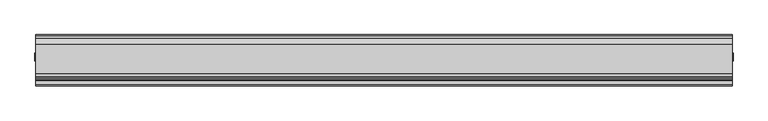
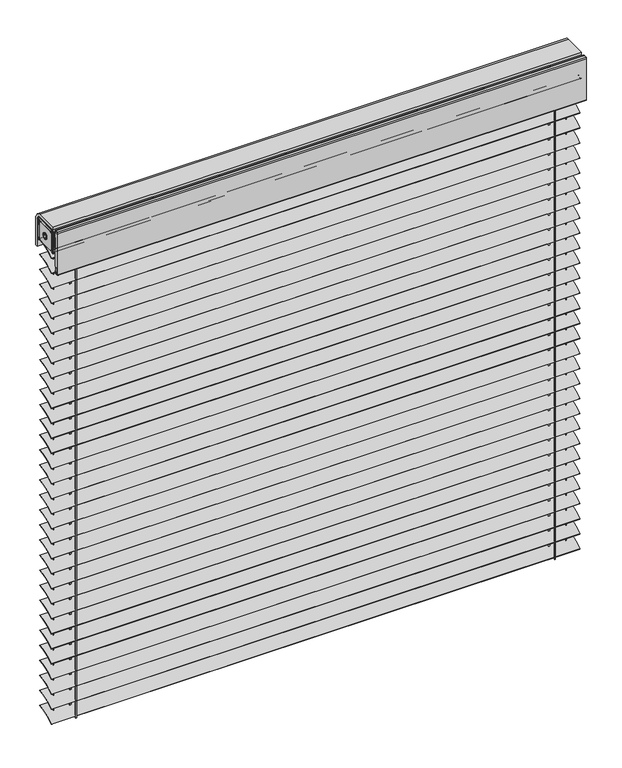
"""IFC4 building model written with IfcOpenShell, lengths in millimetres: proxy geometry, Windows-Blinds Schenker Stores Stores a lamelles Economy EC 70 : Windows-Blinds Schenker Stores Stores a lamelles Economy EC 76."""

from ifc_helpers import new_model, si_unit, point, frame, frame_2d, origin, origin_with_axes, place, context, project, spatial, polyline, circle_curve, trimmed, segment, composite_curve, outline, extrude, source, transform, mapped, element, save


def generic_models_453052fa(model_context):
    return source(origin(), model_context, "Body", "SweptSolid", [
        extrude(outline(composite_curve([segment(trimmed(circle_curve(frame_2d((-18.8646778, 1451.2241882)), 112.7401342), [point((-88.1932392, 1540.1280038))], [point((-22.3317138, 1563.9109998))], False, "CARTESIAN"), True, "CONTINUOUS"), segment(polyline([(-22.3317138, 1563.9109998), (-22.3317138, 1562.9105223)]), True, "CONTINUOUS"), segment(trimmed(circle_curve(frame_2d((-18.8646778, 1451.2241882)), 111.7401342), [point((-22.3317138, 1562.9105223))], [point((-87.5782979, 1539.3394309))], True, "CARTESIAN"), True, "CONTINUOUS"), segment(polyline([(-87.5782979, 1539.3394309), (-88.1932392, 1540.1280038)]), True, "CONTINUOUS")], self_intersect=False)), frame((-850.0, 0.0, 0.0), z_axis=(1.0, 0.0, 0.0), x_axis=(0.0, 1.0, 0.0)), (0.0, 0.0, 1.0), 1700.0),
        extrude(outline(composite_curve([segment(trimmed(circle_curve(frame_2d((-18.8646778, 1400.1351879)), 112.7401342), [point((-88.1932392, 1489.0390036))], [point((-22.3317138, 1512.8219996))], False, "CARTESIAN"), True, "CONTINUOUS"), segment(polyline([(-22.3317138, 1512.8219996), (-22.3317138, 1511.8215221)]), True, "CONTINUOUS"), segment(trimmed(circle_curve(frame_2d((-18.8646778, 1400.1351879)), 111.7401342), [point((-22.3317138, 1511.8215221))], [point((-87.5782979, 1488.2504307))], True, "CARTESIAN"), True, "CONTINUOUS"), segment(polyline([(-87.5782979, 1488.2504307), (-88.1932392, 1489.0390036)]), True, "CONTINUOUS")], self_intersect=False)), frame((-850.0, 0.0, 0.0), z_axis=(1.0, 0.0, 0.0), x_axis=(0.0, 1.0, 0.0)), (0.0, 0.0, 1.0), 1700.0),
        extrude(outline(composite_curve([segment(trimmed(circle_curve(frame_2d((-18.8646778, 1349.0461877)), 112.7401342), [point((-88.1932392, 1437.9500033))], [point((-22.3317138, 1461.7329993))], False, "CARTESIAN"), True, "CONTINUOUS"), segment(polyline([(-22.3317138, 1461.7329993), (-22.3317138, 1460.7325219)]), True, "CONTINUOUS"), segment(trimmed(circle_curve(frame_2d((-18.8646778, 1349.0461877)), 111.7401342), [point((-22.3317138, 1460.7325219))], [point((-87.5782979, 1437.1614304))], True, "CARTESIAN"), True, "CONTINUOUS"), segment(polyline([(-87.5782979, 1437.1614304), (-88.1932392, 1437.9500033)]), True, "CONTINUOUS")], self_intersect=False)), frame((-850.0, 0.0, 0.0), z_axis=(1.0, 0.0, 0.0), x_axis=(0.0, 1.0, 0.0)), (0.0, 0.0, 1.0), 1700.0),
        extrude(outline(composite_curve([segment(trimmed(circle_curve(frame_2d((-18.8646778, 1297.9571875)), 112.7401342), [point((-88.1932392, 1386.8610031))], [point((-22.3317138, 1410.6439991))], False, "CARTESIAN"), True, "CONTINUOUS"), segment(polyline([(-22.3317138, 1410.6439991), (-22.3317138, 1409.6435217)]), True, "CONTINUOUS"), segment(trimmed(circle_curve(frame_2d((-18.8646778, 1297.9571875)), 111.7401342), [point((-22.3317138, 1409.6435217))], [point((-87.5782979, 1386.0724302))], True, "CARTESIAN"), True, "CONTINUOUS"), segment(polyline([(-87.5782979, 1386.0724302), (-88.1932392, 1386.8610031)]), True, "CONTINUOUS")], self_intersect=False)), frame((-850.0, 0.0, 0.0), z_axis=(1.0, 0.0, 0.0), x_axis=(0.0, 1.0, 0.0)), (0.0, 0.0, 1.0), 1700.0),
        extrude(outline(composite_curve([segment(trimmed(circle_curve(frame_2d((-18.8646778, 1246.8681873)), 112.7401342), [point((-88.1932392, 1335.7720029))], [point((-22.3317138, 1359.5549989))], False, "CARTESIAN"), True, "CONTINUOUS"), segment(polyline([(-22.3317138, 1359.5549989), (-22.3317138, 1358.5545215)]), True, "CONTINUOUS"), segment(trimmed(circle_curve(frame_2d((-18.8646778, 1246.8681873)), 111.7401342), [point((-22.3317138, 1358.5545215))], [point((-87.5782979, 1334.98343))], True, "CARTESIAN"), True, "CONTINUOUS"), segment(polyline([(-87.5782979, 1334.98343), (-88.1932392, 1335.7720029)]), True, "CONTINUOUS")], self_intersect=False)), frame((-850.0, 0.0, 0.0), z_axis=(1.0, 0.0, 0.0), x_axis=(0.0, 1.0, 0.0)), (0.0, 0.0, 1.0), 1700.0),
        extrude(outline(composite_curve([segment(trimmed(circle_curve(frame_2d((-18.8646778, 1195.7791871)), 112.7401342), [point((-88.1932392, 1284.6830027))], [point((-22.3317138, 1308.4659987))], False, "CARTESIAN"), True, "CONTINUOUS"), segment(polyline([(-22.3317138, 1308.4659987), (-22.3317138, 1307.4655212)]), True, "CONTINUOUS"), segment(trimmed(circle_curve(frame_2d((-18.8646778, 1195.7791871)), 111.7401342), [point((-22.3317138, 1307.4655212))], [point((-87.5782979, 1283.8944298))], True, "CARTESIAN"), True, "CONTINUOUS"), segment(polyline([(-87.5782979, 1283.8944298), (-88.1932392, 1284.6830027)]), True, "CONTINUOUS")], self_intersect=False)), frame((-850.0, 0.0, 0.0), z_axis=(1.0, 0.0, 0.0), x_axis=(0.0, 1.0, 0.0)), (0.0, 0.0, 1.0), 1700.0),
        extrude(outline(composite_curve([segment(trimmed(circle_curve(frame_2d((-18.8646778, 1144.6901868)), 112.7401342), [point((-88.1932392, 1233.5940025))], [point((-22.3317138, 1257.3769984))], False, "CARTESIAN"), True, "CONTINUOUS"), segment(polyline([(-22.3317138, 1257.3769984), (-22.3317138, 1256.376521)]), True, "CONTINUOUS"), segment(trimmed(circle_curve(frame_2d((-18.8646778, 1144.6901868)), 111.7401342), [point((-22.3317138, 1256.376521))], [point((-87.5782979, 1232.8054295))], True, "CARTESIAN"), True, "CONTINUOUS"), segment(polyline([(-87.5782979, 1232.8054295), (-88.1932392, 1233.5940025)]), True, "CONTINUOUS")], self_intersect=False)), frame((-850.0, 0.0, 0.0), z_axis=(1.0, 0.0, 0.0), x_axis=(0.0, 1.0, 0.0)), (0.0, 0.0, 1.0), 1700.0),
        extrude(outline(composite_curve([segment(trimmed(circle_curve(frame_2d((-18.8646778, 1093.6011866)), 112.7401342), [point((-88.1932392, 1182.5050022))], [point((-22.3317138, 1206.2879982))], False, "CARTESIAN"), True, "CONTINUOUS"), segment(polyline([(-22.3317138, 1206.2879982), (-22.3317138, 1205.2875208)]), True, "CONTINUOUS"), segment(trimmed(circle_curve(frame_2d((-18.8646778, 1093.6011866)), 111.7401342), [point((-22.3317138, 1205.2875208))], [point((-87.5782979, 1181.7164293))], True, "CARTESIAN"), True, "CONTINUOUS"), segment(polyline([(-87.5782979, 1181.7164293), (-88.1932392, 1182.5050022)]), True, "CONTINUOUS")], self_intersect=False)), frame((-850.0, 0.0, 0.0), z_axis=(1.0, 0.0, 0.0), x_axis=(0.0, 1.0, 0.0)), (0.0, 0.0, 1.0), 1700.0),
        extrude(outline(composite_curve([segment(trimmed(circle_curve(frame_2d((-18.8646778, 1042.5121864)), 112.7401342), [point((-88.1932392, 1131.416002))], [point((-22.3317138, 1155.198998))], False, "CARTESIAN"), True, "CONTINUOUS"), segment(polyline([(-22.3317138, 1155.198998), (-22.3317138, 1154.1985206)]), True, "CONTINUOUS"), segment(trimmed(circle_curve(frame_2d((-18.8646778, 1042.5121864)), 111.7401342), [point((-22.3317138, 1154.1985206))], [point((-87.5782979, 1130.6274291))], True, "CARTESIAN"), True, "CONTINUOUS"), segment(polyline([(-87.5782979, 1130.6274291), (-88.1932392, 1131.416002)]), True, "CONTINUOUS")], self_intersect=False)), frame((-850.0, 0.0, 0.0), z_axis=(1.0, 0.0, 0.0), x_axis=(0.0, 1.0, 0.0)), (0.0, 0.0, 1.0), 1700.0),
        extrude(outline(composite_curve([segment(trimmed(circle_curve(frame_2d((-18.8646778, 991.4231862)), 112.7401342), [point((-88.1932392, 1080.3270018))], [point((-22.3317138, 1104.1099978))], False, "CARTESIAN"), True, "CONTINUOUS"), segment(polyline([(-22.3317138, 1104.1099978), (-22.3317138, 1103.1095203)]), True, "CONTINUOUS"), segment(trimmed(circle_curve(frame_2d((-18.8646778, 991.4231862)), 111.7401342), [point((-22.3317138, 1103.1095203))], [point((-87.5782979, 1079.5384289))], True, "CARTESIAN"), True, "CONTINUOUS"), segment(polyline([(-87.5782979, 1079.5384289), (-88.1932392, 1080.3270018)]), True, "CONTINUOUS")], self_intersect=False)), frame((-850.0, 0.0, 0.0), z_axis=(1.0, 0.0, 0.0), x_axis=(0.0, 1.0, 0.0)), (0.0, 0.0, 1.0), 1700.0),
        extrude(outline(composite_curve([segment(trimmed(circle_curve(frame_2d((-18.8646778, 940.3341859)), 112.7401342), [point((-88.1932392, 1029.2380016))], [point((-22.3317138, 1053.0209976))], False, "CARTESIAN"), True, "CONTINUOUS"), segment(polyline([(-22.3317138, 1053.0209976), (-22.3317138, 1052.0205201)]), True, "CONTINUOUS"), segment(trimmed(circle_curve(frame_2d((-18.8646778, 940.3341859)), 111.7401342), [point((-22.3317138, 1052.0205201))], [point((-87.5782979, 1028.4494287))], True, "CARTESIAN"), True, "CONTINUOUS"), segment(polyline([(-87.5782979, 1028.4494287), (-88.1932392, 1029.2380016)]), True, "CONTINUOUS")], self_intersect=False)), frame((-850.0, 0.0, 0.0), z_axis=(1.0, 0.0, 0.0), x_axis=(0.0, 1.0, 0.0)), (0.0, 0.0, 1.0), 1700.0),
        extrude(outline(composite_curve([segment(trimmed(circle_curve(frame_2d((-18.8646778, 889.2451857)), 112.7401342), [point((-88.1932392, 978.1490013))], [point((-22.3317138, 1001.9319973))], False, "CARTESIAN"), True, "CONTINUOUS"), segment(polyline([(-22.3317138, 1001.9319973), (-22.3317138, 1000.9315199)]), True, "CONTINUOUS"), segment(trimmed(circle_curve(frame_2d((-18.8646778, 889.2451857)), 111.7401342), [point((-22.3317138, 1000.9315199))], [point((-87.5782979, 977.3604284))], True, "CARTESIAN"), True, "CONTINUOUS"), segment(polyline([(-87.5782979, 977.3604284), (-88.1932392, 978.1490013)]), True, "CONTINUOUS")], self_intersect=False)), frame((-850.0, 0.0, 0.0), z_axis=(1.0, 0.0, 0.0), x_axis=(0.0, 1.0, 0.0)), (0.0, 0.0, 1.0), 1700.0),
        extrude(outline(composite_curve([segment(trimmed(circle_curve(frame_2d((-18.8646778, 838.1561855)), 112.7401342), [point((-88.1932392, 927.0600011))], [point((-22.3317138, 950.8429971))], False, "CARTESIAN"), True, "CONTINUOUS"), segment(polyline([(-22.3317138, 950.8429971), (-22.3317138, 949.8425197)]), True, "CONTINUOUS"), segment(trimmed(circle_curve(frame_2d((-18.8646778, 838.1561855)), 111.7401342), [point((-22.3317138, 949.8425197))], [point((-87.5782979, 926.2714282))], True, "CARTESIAN"), True, "CONTINUOUS"), segment(polyline([(-87.5782979, 926.2714282), (-88.1932392, 927.0600011)]), True, "CONTINUOUS")], self_intersect=False)), frame((-850.0, 0.0, 0.0), z_axis=(1.0, 0.0, 0.0), x_axis=(0.0, 1.0, 0.0)), (0.0, 0.0, 1.0), 1700.0),
        extrude(outline(composite_curve([segment(trimmed(circle_curve(frame_2d((-18.8646778, 787.0671853)), 112.7401342), [point((-88.1932392, 875.9710009))], [point((-22.3317138, 899.7539969))], False, "CARTESIAN"), True, "CONTINUOUS"), segment(polyline([(-22.3317138, 899.7539969), (-22.3317138, 898.7535195)]), True, "CONTINUOUS"), segment(trimmed(circle_curve(frame_2d((-18.8646778, 787.0671853)), 111.7401342), [point((-22.3317138, 898.7535195))], [point((-87.5782979, 875.182428))], True, "CARTESIAN"), True, "CONTINUOUS"), segment(polyline([(-87.5782979, 875.182428), (-88.1932392, 875.9710009)]), True, "CONTINUOUS")], self_intersect=False)), frame((-850.0, 0.0, 0.0), z_axis=(1.0, 0.0, 0.0), x_axis=(0.0, 1.0, 0.0)), (0.0, 0.0, 1.0), 1700.0),
        extrude(outline(composite_curve([segment(trimmed(circle_curve(frame_2d((-18.8646778, 735.9781851)), 112.7401342), [point((-88.1932392, 824.8820007))], [point((-22.3317138, 848.6649967))], False, "CARTESIAN"), True, "CONTINUOUS"), segment(polyline([(-22.3317138, 848.6649967), (-22.3317138, 847.6645192)]), True, "CONTINUOUS"), segment(trimmed(circle_curve(frame_2d((-18.8646778, 735.9781851)), 111.7401342), [point((-22.3317138, 847.6645192))], [point((-87.5782979, 824.0934278))], True, "CARTESIAN"), True, "CONTINUOUS"), segment(polyline([(-87.5782979, 824.0934278), (-88.1932392, 824.8820007)]), True, "CONTINUOUS")], self_intersect=False)), frame((-850.0, 0.0, 0.0), z_axis=(1.0, 0.0, 0.0), x_axis=(0.0, 1.0, 0.0)), (0.0, 0.0, 1.0), 1700.0),
        extrude(outline(composite_curve([segment(trimmed(circle_curve(frame_2d((-18.8646778, 684.8891848)), 112.7401342), [point((-88.1932392, 773.7930005))], [point((-22.3317138, 797.5759964))], False, "CARTESIAN"), True, "CONTINUOUS"), segment(polyline([(-22.3317138, 797.5759964), (-22.3317138, 796.575519)]), True, "CONTINUOUS"), segment(trimmed(circle_curve(frame_2d((-18.8646778, 684.8891848)), 111.7401342), [point((-22.3317138, 796.575519))], [point((-87.5782979, 773.0044275))], True, "CARTESIAN"), True, "CONTINUOUS"), segment(polyline([(-87.5782979, 773.0044275), (-88.1932392, 773.7930005)]), True, "CONTINUOUS")], self_intersect=False)), frame((-850.0, 0.0, 0.0), z_axis=(1.0, 0.0, 0.0), x_axis=(0.0, 1.0, 0.0)), (0.0, 0.0, 1.0), 1700.0),
        extrude(outline(composite_curve([segment(trimmed(circle_curve(frame_2d((-18.8646778, 633.8001846)), 112.7401342), [point((-88.1932392, 722.7040002))], [point((-22.3317138, 746.4869962))], False, "CARTESIAN"), True, "CONTINUOUS"), segment(polyline([(-22.3317138, 746.4869962), (-22.3317138, 745.4865188)]), True, "CONTINUOUS"), segment(trimmed(circle_curve(frame_2d((-18.8646778, 633.8001846)), 111.7401342), [point((-22.3317138, 745.4865188))], [point((-87.5782979, 721.9154273))], True, "CARTESIAN"), True, "CONTINUOUS"), segment(polyline([(-87.5782979, 721.9154273), (-88.1932392, 722.7040002)]), True, "CONTINUOUS")], self_intersect=False)), frame((-850.0, 0.0, 0.0), z_axis=(1.0, 0.0, 0.0), x_axis=(0.0, 1.0, 0.0)), (0.0, 0.0, 1.0), 1700.0),
        extrude(outline(composite_curve([segment(trimmed(circle_curve(frame_2d((-18.8646778, 582.7111844)), 112.7401342), [point((-88.1932392, 671.615))], [point((-22.3317138, 695.397996))], False, "CARTESIAN"), True, "CONTINUOUS"), segment(polyline([(-22.3317138, 695.397996), (-22.3317138, 694.3975186)]), True, "CONTINUOUS"), segment(trimmed(circle_curve(frame_2d((-18.8646778, 582.7111844)), 111.7401342), [point((-22.3317138, 694.3975186))], [point((-87.5782979, 670.8264271))], True, "CARTESIAN"), True, "CONTINUOUS"), segment(polyline([(-87.5782979, 670.8264271), (-88.1932392, 671.615)]), True, "CONTINUOUS")], self_intersect=False)), frame((-850.0, 0.0, 0.0), z_axis=(1.0, 0.0, 0.0), x_axis=(0.0, 1.0, 0.0)), (0.0, 0.0, 1.0), 1700.0),
        extrude(outline(composite_curve([segment(trimmed(circle_curve(frame_2d((-18.8646778, 531.6221842)), 112.7401342), [point((-88.1932392, 620.5259998))], [point((-22.3317138, 644.3089958))], False, "CARTESIAN"), True, "CONTINUOUS"), segment(polyline([(-22.3317138, 644.3089958), (-22.3317138, 643.3085183)]), True, "CONTINUOUS"), segment(trimmed(circle_curve(frame_2d((-18.8646778, 531.6221842)), 111.7401342), [point((-22.3317138, 643.3085183))], [point((-87.5782979, 619.7374269))], True, "CARTESIAN"), True, "CONTINUOUS"), segment(polyline([(-87.5782979, 619.7374269), (-88.1932392, 620.5259998)]), True, "CONTINUOUS")], self_intersect=False)), frame((-850.0, 0.0, 0.0), z_axis=(1.0, 0.0, 0.0), x_axis=(0.0, 1.0, 0.0)), (0.0, 0.0, 1.0), 1700.0),
        extrude(outline(composite_curve([segment(trimmed(circle_curve(frame_2d((-18.8646778, 480.5331839)), 112.7401342), [point((-88.1932392, 569.4369996))], [point((-22.3317138, 593.2199956))], False, "CARTESIAN"), True, "CONTINUOUS"), segment(polyline([(-22.3317138, 593.2199956), (-22.3317138, 592.2195181)]), True, "CONTINUOUS"), segment(trimmed(circle_curve(frame_2d((-18.8646778, 480.5331839)), 111.7401342), [point((-22.3317138, 592.2195181))], [point((-87.5782979, 568.6484267))], True, "CARTESIAN"), True, "CONTINUOUS"), segment(polyline([(-87.5782979, 568.6484267), (-88.1932392, 569.4369996)]), True, "CONTINUOUS")], self_intersect=False)), frame((-850.0, 0.0, 0.0), z_axis=(1.0, 0.0, 0.0), x_axis=(0.0, 1.0, 0.0)), (0.0, 0.0, 1.0), 1700.0),
        extrude(outline(composite_curve([segment(trimmed(circle_curve(frame_2d((-18.8646778, 429.4441837)), 112.7401342), [point((-88.1932392, 518.3479993))], [point((-22.3317138, 542.1309953))], False, "CARTESIAN"), True, "CONTINUOUS"), segment(polyline([(-22.3317138, 542.1309953), (-22.3317138, 541.1305179)]), True, "CONTINUOUS"), segment(trimmed(circle_curve(frame_2d((-18.8646778, 429.4441837)), 111.7401342), [point((-22.3317138, 541.1305179))], [point((-87.5782979, 517.5594264))], True, "CARTESIAN"), True, "CONTINUOUS"), segment(polyline([(-87.5782979, 517.5594264), (-88.1932392, 518.3479993)]), True, "CONTINUOUS")], self_intersect=False)), frame((-850.0, 0.0, 0.0), z_axis=(1.0, 0.0, 0.0), x_axis=(0.0, 1.0, 0.0)), (0.0, 0.0, 1.0), 1700.0),
        extrude(outline(composite_curve([segment(trimmed(circle_curve(frame_2d((-18.8646778, 378.3551835)), 112.7401342), [point((-88.1932392, 467.2589991))], [point((-22.3317138, 491.0419951))], False, "CARTESIAN"), True, "CONTINUOUS"), segment(polyline([(-22.3317138, 491.0419951), (-22.3317138, 490.0415177)]), True, "CONTINUOUS"), segment(trimmed(circle_curve(frame_2d((-18.8646778, 378.3551835)), 111.7401342), [point((-22.3317138, 490.0415177))], [point((-87.5782979, 466.4704262))], True, "CARTESIAN"), True, "CONTINUOUS"), segment(polyline([(-87.5782979, 466.4704262), (-88.1932392, 467.2589991)]), True, "CONTINUOUS")], self_intersect=False)), frame((-850.0, 0.0, 0.0), z_axis=(1.0, 0.0, 0.0), x_axis=(0.0, 1.0, 0.0)), (0.0, 0.0, 1.0), 1700.0),
        extrude(outline(composite_curve([segment(trimmed(circle_curve(frame_2d((-18.8646778, 327.2661833)), 112.7401342), [point((-88.1932392, 416.1699989))], [point((-22.3317138, 439.9529949))], False, "CARTESIAN"), True, "CONTINUOUS"), segment(polyline([(-22.3317138, 439.9529949), (-22.3317138, 438.9525175)]), True, "CONTINUOUS"), segment(trimmed(circle_curve(frame_2d((-18.8646778, 327.2661833)), 111.7401342), [point((-22.3317138, 438.9525175))], [point((-87.5782979, 415.381426))], True, "CARTESIAN"), True, "CONTINUOUS"), segment(polyline([(-87.5782979, 415.381426), (-88.1932392, 416.1699989)]), True, "CONTINUOUS")], self_intersect=False)), frame((-850.0, 0.0, 0.0), z_axis=(1.0, 0.0, 0.0), x_axis=(0.0, 1.0, 0.0)), (0.0, 0.0, 1.0), 1700.0),
        extrude(outline(composite_curve([segment(trimmed(circle_curve(frame_2d((-18.8646778, 276.1771831)), 112.7401342), [point((-88.1932392, 365.0809987))], [point((-22.3317138, 388.8639947))], False, "CARTESIAN"), True, "CONTINUOUS"), segment(polyline([(-22.3317138, 388.8639947), (-22.3317138, 387.8635172)]), True, "CONTINUOUS"), segment(trimmed(circle_curve(frame_2d((-18.8646778, 276.1771831)), 111.7401342), [point((-22.3317138, 387.8635172))], [point((-87.5782979, 364.2924258))], True, "CARTESIAN"), True, "CONTINUOUS"), segment(polyline([(-87.5782979, 364.2924258), (-88.1932392, 365.0809987)]), True, "CONTINUOUS")], self_intersect=False)), frame((-850.0, 0.0, 0.0), z_axis=(1.0, 0.0, 0.0), x_axis=(0.0, 1.0, 0.0)), (0.0, 0.0, 1.0), 1700.0),
        extrude(outline(composite_curve([segment(trimmed(circle_curve(frame_2d((-18.8646778, 225.0881828)), 112.7401342), [point((-88.1932392, 313.9919985))], [point((-22.3317138, 337.7749944))], False, "CARTESIAN"), True, "CONTINUOUS"), segment(polyline([(-22.3317138, 337.7749944), (-22.3317138, 336.774517)]), True, "CONTINUOUS"), segment(trimmed(circle_curve(frame_2d((-18.8646778, 225.0881828)), 111.7401342), [point((-22.3317138, 336.774517))], [point((-87.5782979, 313.2034255))], True, "CARTESIAN"), True, "CONTINUOUS"), segment(polyline([(-87.5782979, 313.2034255), (-88.1932392, 313.9919985)]), True, "CONTINUOUS")], self_intersect=False)), frame((-850.0, 0.0, 0.0), z_axis=(1.0, 0.0, 0.0), x_axis=(0.0, 1.0, 0.0)), (0.0, 0.0, 1.0), 1700.0),
        extrude(outline(composite_curve([segment(trimmed(circle_curve(frame_2d((-18.8646778, 173.9991826)), 112.7401342), [point((-88.1932392, 262.9029982))], [point((-22.3317138, 286.6859942))], False, "CARTESIAN"), True, "CONTINUOUS"), segment(polyline([(-22.3317138, 286.6859942), (-22.3317138, 285.6855168)]), True, "CONTINUOUS"), segment(trimmed(circle_curve(frame_2d((-18.8646778, 173.9991826)), 111.7401342), [point((-22.3317138, 285.6855168))], [point((-87.5782979, 262.1144253))], True, "CARTESIAN"), True, "CONTINUOUS"), segment(polyline([(-87.5782979, 262.1144253), (-88.1932392, 262.9029982)]), True, "CONTINUOUS")], self_intersect=False)), frame((-850.0, 0.0, 0.0), z_axis=(1.0, 0.0, 0.0), x_axis=(0.0, 1.0, 0.0)), (0.0, 0.0, 1.0), 1700.0),
        extrude(outline(composite_curve([segment(trimmed(circle_curve(frame_2d((-18.8646778, 122.9101824)), 112.7401342), [point((-88.1932392, 211.813998))], [point((-22.3317138, 235.596994))], False, "CARTESIAN"), True, "CONTINUOUS"), segment(polyline([(-22.3317138, 235.596994), (-22.3317138, 234.5965166)]), True, "CONTINUOUS"), segment(trimmed(circle_curve(frame_2d((-18.8646778, 122.9101824)), 111.7401342), [point((-22.3317138, 234.5965166))], [point((-87.5782979, 211.0254251))], True, "CARTESIAN"), True, "CONTINUOUS"), segment(polyline([(-87.5782979, 211.0254251), (-88.1932392, 211.813998)]), True, "CONTINUOUS")], self_intersect=False)), frame((-850.0, 0.0, 0.0), z_axis=(1.0, 0.0, 0.0), x_axis=(0.0, 1.0, 0.0)), (0.0, 0.0, 1.0), 1700.0),
        extrude(outline(composite_curve([segment(trimmed(circle_curve(frame_2d((-18.8646778, 71.8211822)), 112.7401342), [point((-88.1932392, 160.7249978))], [point((-22.3317138, 184.5079938))], False, "CARTESIAN"), True, "CONTINUOUS"), segment(polyline([(-22.3317138, 184.5079938), (-22.3317138, 183.5075163)]), True, "CONTINUOUS"), segment(trimmed(circle_curve(frame_2d((-18.8646778, 71.8211822)), 111.7401342), [point((-22.3317138, 183.5075163))], [point((-87.5782979, 159.9364249))], True, "CARTESIAN"), True, "CONTINUOUS"), segment(polyline([(-87.5782979, 159.9364249), (-88.1932392, 160.7249978)]), True, "CONTINUOUS")], self_intersect=False)), frame((-850.0, 0.0, 0.0), z_axis=(1.0, 0.0, 0.0), x_axis=(0.0, 1.0, 0.0)), (0.0, 0.0, 1.0), 1700.0),
        extrude(outline(composite_curve([segment(trimmed(circle_curve(frame_2d((-18.8646778, 20.7321819)), 112.7401342), [point((-88.1932392, 109.6359976))], [point((-22.3317138, 133.4189936))], False, "CARTESIAN"), True, "CONTINUOUS"), segment(polyline([(-22.3317138, 133.4189936), (-22.3317138, 132.4185161)]), True, "CONTINUOUS"), segment(trimmed(circle_curve(frame_2d((-18.8646778, 20.7321819)), 111.7401342), [point((-22.3317138, 132.4185161))], [point((-87.5782979, 108.8474247))], True, "CARTESIAN"), True, "CONTINUOUS"), segment(polyline([(-87.5782979, 108.8474247), (-88.1932392, 109.6359976)]), True, "CONTINUOUS")], self_intersect=False)), frame((-850.0, 0.0, 0.0), z_axis=(1.0, 0.0, 0.0), x_axis=(0.0, 1.0, 0.0)), (0.0, 0.0, 1.0), 1700.0),
        extrude(outline(composite_curve([segment(trimmed(circle_curve(frame_2d((-18.8646778, -30.3568183)), 112.7401342), [point((-88.1932392, 58.5469973))], [point((-22.3317138, 82.3299933))], False, "CARTESIAN"), True, "CONTINUOUS"), segment(polyline([(-22.3317138, 82.3299933), (-22.3317138, 81.3295159)]), True, "CONTINUOUS"), segment(trimmed(circle_curve(frame_2d((-18.8646778, -30.3568183)), 111.7401342), [point((-22.3317138, 81.3295159))], [point((-87.5782979, 57.7584244))], True, "CARTESIAN"), True, "CONTINUOUS"), segment(polyline([(-87.5782979, 57.7584244), (-88.1932392, 58.5469973)]), True, "CONTINUOUS")], self_intersect=False)), frame((-850.0, 0.0, 0.0), z_axis=(1.0, 0.0, 0.0), x_axis=(0.0, 1.0, 0.0)), (0.0, 0.0, 1.0), 1700.0),
        extrude(outline(composite_curve([segment(trimmed(circle_curve(frame_2d((-18.8646778, 1502.3131884)), 112.7401342), [point((-88.1932392, 1591.217004))], [point((-22.3317138, 1615.0))], False, "CARTESIAN"), True, "CONTINUOUS"), segment(polyline([(-22.3317138, 1615.0), (-22.3317138, 1613.9995226)]), True, "CONTINUOUS"), segment(trimmed(circle_curve(frame_2d((-18.8646778, 1502.3131884)), 111.7401342), [point((-22.3317138, 1613.9995226))], [point((-87.5782979, 1590.4284311))], True, "CARTESIAN"), True, "CONTINUOUS"), segment(polyline([(-87.5782979, 1590.4284311), (-88.1932392, 1591.217004)]), True, "CONTINUOUS")], self_intersect=False)), frame((-850.0, 0.0, 0.0), z_axis=(1.0, 0.0, 0.0), x_axis=(0.0, 1.0, 0.0)), (0.0, 0.0, 1.0), 1700.0),
        extrude(outline(polyline([(-823.7246781, -54.667671), (-823.7246781, -55.5704874), (-825.0, -55.5704874), (-825.0, -54.667671), (-823.7246781, -54.667671)])), origin_with_axes(), (0.0, 0.0, 1.0), 1615.0),
        extrude(outline(polyline([(-767.7873221, -54.6676648), (-767.7873221, -55.5276502), (-772.5868112, -55.5276502), (-772.5868112, -54.6676648), (-767.7873221, -54.6676648)])), origin_with_axes(), (0.0, 0.0, 1.0), 1615.0),
        extrude(outline(polyline([(823.7246781, -54.667671), (825.0, -54.667671), (825.0, -55.5704874), (823.7246781, -55.5704874), (823.7246781, -54.667671)])), origin_with_axes(), (0.0, 0.0, 1.0), 1615.0),
        extrude(outline(polyline([(767.7873221, -54.6676648), (772.5868112, -54.6676648), (772.5868112, -55.5704806), (767.7873221, -55.5704806), (767.7873221, -54.6676648)])), origin_with_axes(), (0.0, 0.0, 1.0), 1615.0),
        extrude(outline(polyline([(-768.8882367, -88.2983427), (-771.3882294, -88.2983427), (-771.3882294, -85.5983427), (-768.8882367, -85.5983427), (-768.8882367, -88.2983427)])), origin_with_axes(), (0.0, 0.0, 1.0), 1615.0),
        extrude(outline(polyline([(-771.3882294, -22.1475771), (-768.8882367, -22.1475771), (-768.8882367, -24.8080021), (-771.3882294, -24.8080021), (-771.3882294, -22.1475771)])), origin_with_axes(), (0.0, 0.0, 1.0), 1615.0),
        extrude(outline(polyline([(771.3958013, -22.1475771), (771.3958013, -24.8475771), (768.8958085, -24.8475771), (768.8958085, -22.1475771), (771.3958013, -22.1475771)])), origin_with_axes(), (0.0, 0.0, 1.0), 1615.0),
        extrude(outline(polyline([(768.8958085, -88.2983427), (768.8958085, -85.5983427), (771.3958013, -85.5983427), (771.3958013, -88.2983427), (768.8958085, -88.2983427)])), origin_with_axes(), (0.0, 0.0, 1.0), 1615.0),
        extrude(outline(composite_curve([segment(trimmed(circle_curve(frame_2d((-18.8646778, -81.4458185)), 112.7401342), [point((-88.1932392, 7.4579971))], [point((-22.3317138, 31.2409931))], False, "CARTESIAN"), True, "CONTINUOUS"), segment(polyline([(-22.3317138, 31.2409931), (-22.3317138, 30.2405157)]), True, "CONTINUOUS"), segment(trimmed(circle_curve(frame_2d((-18.8646778, -81.4458185)), 111.7401342), [point((-22.3317138, 30.2405157))], [point((-87.5782979, 6.6694242))], True, "CARTESIAN"), True, "CONTINUOUS"), segment(polyline([(-87.5782979, 6.6694242), (-88.1932392, 7.4579971)]), True, "CONTINUOUS")], self_intersect=False)), frame((-850.0, 0.0, 0.0), z_axis=(1.0, 0.0, 0.0), x_axis=(0.0, 1.0, 0.0)), (0.0, 0.0, 1.0), 1700.0),
        extrude(outline(composite_curve([segment(trimmed(circle_curve(frame_2d((-121.9991374, 1555.8607809)), 1.4999084), [point((-123.4990459, 1555.8607809))], [point((-121.9991374, 1554.3608725))], True, "CARTESIAN"), True, "CONTINUOUS"), segment(polyline([(-121.9991374, 1554.3608725), (-112.9990554, 1554.3608725)]), True, "CONTINUOUS"), segment(trimmed(circle_curve(frame_2d((-112.9990554, 1555.8608718)), 1.4999993), [point((-112.9990554, 1554.3608725))], [point((-111.4990561, 1555.8608718))], True, "CARTESIAN"), True, "CONTINUOUS"), segment(polyline([(-111.4990561, 1555.8608718), (-111.4990561, 1558.8249895), (-110.9535226, 1560.8609118), (-109.9990568, 1560.8609118), (-109.9990568, 1555.8607809)]), True, "CONTINUOUS"), segment(trimmed(circle_curve(frame_2d((-112.9990191, 1555.8607809)), 2.9999622), [point((-109.9990568, 1555.8607809))], [point((-112.9990191, 1552.8608187))], False, "CARTESIAN"), True, "CONTINUOUS"), segment(polyline([(-112.9990191, 1552.8608187), (-121.9990784, 1552.8608187)]), True, "CONTINUOUS"), segment(trimmed(circle_curve(frame_2d((-121.9990784, 1555.8607809)), 2.9999622), [point((-121.9990784, 1552.8608187))], [point((-124.9990406, 1555.8607809))], False, "CARTESIAN"), True, "CONTINUOUS"), segment(polyline([(-124.9990406, 1555.8607809), (-124.9990406, 1695.8608111)]), True, "CONTINUOUS"), segment(trimmed(circle_curve(frame_2d((-121.998933, 1695.8608111)), 3.0001076), [point((-124.9990406, 1695.8608111))], [point((-121.998933, 1698.8609186))], False, "CARTESIAN"), True, "CONTINUOUS"), segment(polyline([(-121.998933, 1698.8609186), (-112.099681, 1698.8609186)]), True, "CONTINUOUS"), segment(trimmed(circle_curve(frame_2d((-112.099681, 1695.8608787)), 3.0000399), [point((-112.099681, 1698.8609186))], [point((-109.2805505, 1696.8869112))], False, "CARTESIAN"), True, "CONTINUOUS"), segment(polyline([(-109.2805505, 1696.8869112), (-106.5788895, 1689.4638178), (-107.9884374, 1688.9509131), (-110.6901028, 1696.3738856)]), True, "CONTINUOUS"), segment(trimmed(circle_curve(frame_2d((-112.0996417, 1695.8608697)), 1.4999951), [point((-110.6901028, 1696.3738856))], [point((-112.0996417, 1697.3608649))], True, "CARTESIAN"), True, "CONTINUOUS"), segment(polyline([(-112.0996417, 1697.3608649), (-121.9989921, 1697.3608649)]), True, "CONTINUOUS"), segment(trimmed(circle_curve(frame_2d((-121.9989921, 1695.8608111)), 1.5000538), [point((-121.9989921, 1697.3608649))], [point((-123.4990459, 1695.8608111))], True, "CARTESIAN"), True, "CONTINUOUS"), segment(polyline([(-123.4990459, 1695.8608111), (-123.4990459, 1555.8607809)]), True, "CONTINUOUS")], self_intersect=False)), frame((-850.0, 0.0, 0.0), z_axis=(1.0, 0.0, 0.0), x_axis=(0.0, 1.0, 0.0)), (0.0, 0.0, 1.0), 1700.0),
        extrude(outline(polyline([(850.0, -112.9987209), (850.0, -121.4989243), (-850.0, -121.4989243), (-850.0, -112.9987209), (850.0, -112.9987209)])), frame((0.0, 0.0, 1555.0001297), z_axis=(0.0, 0.0, 1.0), x_axis=(1.0, 0.0, 0.0)), (0.0, 0.0, 1.0), 20.7405945),
        extrude(outline(composite_curve([segment(trimmed(circle_curve(frame_2d((-54.8266721, 1646.3040026)), 10.0021363), [point((-64.8288085, 1646.3040026))], [point((-44.8245358, 1646.3040026))], False, "CARTESIAN"), True, "CONTINUOUS"), segment(trimmed(circle_curve(frame_2d((-54.8266721, 1646.3040026)), 10.0021363), [point((-44.8245358, 1646.3040026))], [point((-64.8288085, 1646.3040026))], False, "CARTESIAN"), True, "CONTINUOUS")], self_intersect=False), holes=[composite_curve([segment(trimmed(circle_curve(frame_2d((-54.8290608, 1646.2380341)), 7.1747232), [point((-57.7519733, 1652.7903799))], [point((-51.9061483, 1652.7903799))], True, "CARTESIAN"), True, "CONTINUOUS"), segment(trimmed(circle_curve(frame_2d((-52.1590962, 1650.6163008)), 2.1887445), [point((-51.9061483, 1652.7903799))], [point((-54.0990698, 1651.6297627))], True, "CARTESIAN"), True, "CONTINUOUS"), segment(trimmed(circle_curve(frame_2d((-54.8287466, 1652.0109533)), 0.8232463), [point((-54.0990698, 1651.6297627))], [point((-55.5584234, 1651.6297627))], False, "CARTESIAN"), True, "CONTINUOUS"), segment(trimmed(circle_curve(frame_2d((-57.4984973, 1650.6162484)), 2.1888577), [point((-55.5584234, 1651.6297627))], [point((-57.7519733, 1652.7903799))], True, "CARTESIAN"), True, "CONTINUOUS")], self_intersect=False)]), frame((-851.9744708, 0.0, 0.0), z_axis=(1.0, 0.0, 0.0), x_axis=(0.0, 1.0, 0.0)), (0.0, 0.0, 1.0), 1.9744708),
        extrude(outline(composite_curve([segment(trimmed(circle_curve(frame_2d((-54.8287466, 1652.0370957)), 2.71764), [point((-57.3618888, 1651.0528406))], [point((-52.2956044, 1651.0528406))], True, "CARTESIAN"), True, "CONTINUOUS"), segment(trimmed(circle_curve(frame_2d((-54.8287466, 1646.2414961)), 5.4374485), [point((-52.2956044, 1651.0528406))], [point((-57.3618888, 1651.0528406))], False, "CARTESIAN"), True, "CONTINUOUS")], self_intersect=False)), frame((-851.9744708, 0.0, 0.0), z_axis=(1.0, 0.0, 0.0), x_axis=(0.0, 1.0, 0.0)), (0.0, 0.0, 1.0), 1.9744708),
        extrude(outline(composite_curve([segment(trimmed(circle_curve(frame_2d((-54.8266721, 1646.3040026)), 10.0021363), [point((-64.8288085, 1646.3040026))], [point((-44.8245358, 1646.3040026))], False, "CARTESIAN"), True, "CONTINUOUS"), segment(trimmed(circle_curve(frame_2d((-54.8266721, 1646.3040026)), 10.0021363), [point((-44.8245358, 1646.3040026))], [point((-64.8288085, 1646.3040026))], False, "CARTESIAN"), True, "CONTINUOUS")], self_intersect=False), holes=[composite_curve([segment(trimmed(circle_curve(frame_2d((-54.8290608, 1646.2380341)), 7.1747232), [point((-57.7519733, 1652.7903799))], [point((-51.9061483, 1652.7903799))], True, "CARTESIAN"), True, "CONTINUOUS"), segment(trimmed(circle_curve(frame_2d((-52.1590962, 1650.6163008)), 2.1887445), [point((-51.9061483, 1652.7903799))], [point((-54.0990698, 1651.6297627))], True, "CARTESIAN"), True, "CONTINUOUS"), segment(trimmed(circle_curve(frame_2d((-54.8287466, 1652.0109533)), 0.8232463), [point((-54.0990698, 1651.6297627))], [point((-55.5584234, 1651.6297627))], False, "CARTESIAN"), True, "CONTINUOUS"), segment(trimmed(circle_curve(frame_2d((-57.4984973, 1650.6162484)), 2.1888577), [point((-55.5584234, 1651.6297627))], [point((-57.7519733, 1652.7903799))], True, "CARTESIAN"), True, "CONTINUOUS")], self_intersect=False)]), frame((850.0, 0.0, 0.0), z_axis=(1.0, 0.0, 0.0), x_axis=(0.0, 1.0, 0.0)), (0.0, 0.0, 1.0), 1.9744708),
        extrude(outline(composite_curve([segment(trimmed(circle_curve(frame_2d((-54.8287466, 1652.0370957)), 2.71764), [point((-57.3618888, 1651.0528406))], [point((-52.2956044, 1651.0528406))], True, "CARTESIAN"), True, "CONTINUOUS"), segment(trimmed(circle_curve(frame_2d((-54.8287466, 1646.2414961)), 5.4374485), [point((-52.2956044, 1651.0528406))], [point((-57.3618888, 1651.0528406))], False, "CARTESIAN"), True, "CONTINUOUS")], self_intersect=False)), frame((850.0, 0.0, 0.0), z_axis=(1.0, 0.0, 0.0), x_axis=(0.0, 1.0, 0.0)), (0.0, 0.0, 1.0), 1.9744708),
        extrude(outline(composite_curve([segment(polyline([(-91.5000059, 1687.3022268), (-18.4999378, 1687.3022268)]), True, "CONTINUOUS"), segment(trimmed(circle_curve(frame_2d((-18.4999378, 1681.3023024)), 5.9999245), [point((-18.4999378, 1687.3022268))], [point((-12.5000133, 1681.3023008))], False, "CARTESIAN"), True, "CONTINUOUS"), segment(polyline([(-12.5000133, 1681.3023008), (-12.5000315, 1613.0521071)]), True, "CONTINUOUS"), segment(trimmed(circle_curve(frame_2d((-15.0000242, 1613.0521078)), 2.4999928), [point((-12.5000315, 1613.0521071))], [point((-15.0000242, 1610.5521151))], False, "CARTESIAN"), True, "CONTINUOUS"), segment(polyline([(-15.0000242, 1610.5521151), (-17.64322, 1610.5521151), (-20.4995409, 1612.5521383), (-20.4995409, 1613.5522226), (-18.4995426, 1613.5522226), (-18.4995426, 1612.5521383), (-14.5000162, 1612.5521383), (-14.5000162, 1681.312586)]), True, "CONTINUOUS"), segment(trimmed(circle_curve(frame_2d((-18.5452534, 1681.1858094)), 4.0472233), [point((-14.5000162, 1681.312586))], [point((-21.374557, 1684.0797784))], True, "CARTESIAN"), True, "CONTINUOUS"), segment(trimmed(circle_curve(frame_2d((-33.0827561, 1696.0555752)), 16.7481829), [point((-21.374557, 1684.0797784))], [point((-29.7015124, 1679.6522577))], False, "CARTESIAN"), True, "CONTINUOUS"), segment(polyline([(-29.7015124, 1679.6522577), (-80.2984313, 1679.6522577)]), True, "CONTINUOUS"), segment(trimmed(circle_curve(frame_2d((-76.9171877, 1696.0555752)), 16.7481829), [point((-80.2984313, 1679.6522577))], [point((-88.6253867, 1684.0797784))], False, "CARTESIAN"), True, "CONTINUOUS"), segment(trimmed(circle_curve(frame_2d((-91.4546904, 1681.1858094)), 4.0472233), [point((-88.6253867, 1684.0797784))], [point((-95.4999276, 1681.312586))], True, "CARTESIAN"), True, "CONTINUOUS"), segment(polyline([(-95.4999276, 1681.312586), (-95.4999276, 1612.5521383), (-91.5004011, 1612.5521383), (-91.5004011, 1613.5522226), (-89.5004028, 1613.5522226), (-89.5004028, 1612.5521383), (-92.3567237, 1610.5521151), (-94.9999195, 1610.5521151)]), True, "CONTINUOUS"), segment(trimmed(circle_curve(frame_2d((-94.9999195, 1613.0521078)), 2.4999928), [point((-94.9999195, 1610.5521151))], [point((-97.4999122, 1613.0521071))], False, "CARTESIAN"), True, "CONTINUOUS"), segment(polyline([(-97.4999122, 1613.0521071), (-97.4999304, 1681.3023008)]), True, "CONTINUOUS"), segment(trimmed(circle_curve(frame_2d((-91.5000059, 1681.3023024)), 5.9999245), [point((-97.4999304, 1681.3023008))], [point((-91.5000059, 1687.3022268))], False, "CARTESIAN"), True, "CONTINUOUS")], self_intersect=False)), frame((-850.0, 0.0, 0.0), z_axis=(1.0, 0.0, 0.0), x_axis=(0.0, 1.0, 0.0)), (0.0, 0.0, 1.0), 1700.0),
        extrude(outline(composite_curve([segment(polyline([(-81.8291141, 1677.7041208), (-27.8291035, 1677.7041208)]), True, "CONTINUOUS"), segment(trimmed(circle_curve(frame_2d((-27.8291035, 1672.7041353)), 4.9999855), [point((-27.8291035, 1677.7041208))], [point((-22.829118, 1672.7041341))], False, "CARTESIAN"), True, "CONTINUOUS"), segment(polyline([(-22.829118, 1672.7041341), (-22.8291317, 1618.7040871)]), True, "CONTINUOUS"), segment(trimmed(circle_curve(frame_2d((-27.8291172, 1618.7040884)), 4.9999855), [point((-22.8291317, 1618.7040871))], [point((-27.8291172, 1613.7041029))], False, "CARTESIAN"), True, "CONTINUOUS"), segment(polyline([(-27.8291172, 1613.7041029), (-81.82913, 1613.7041029)]), True, "CONTINUOUS"), segment(trimmed(circle_curve(frame_2d((-81.82913, 1618.704102)), 4.9999991), [point((-81.82913, 1613.7041029))], [point((-86.8291292, 1618.7041031))], False, "CARTESIAN"), True, "CONTINUOUS"), segment(polyline([(-86.8291292, 1618.7041031), (-86.8291178, 1672.7041182)]), True, "CONTINUOUS"), segment(trimmed(circle_curve(frame_2d((-81.8291141, 1672.7041172)), 5.0000037), [point((-86.8291178, 1672.7041182))], [point((-81.8291141, 1677.7041208))], False, "CARTESIAN"), True, "CONTINUOUS")], self_intersect=False)), frame((-850.0, 0.0, 0.0), z_axis=(1.0, 0.0, 0.0), x_axis=(0.0, 1.0, 0.0)), (0.0, 0.0, 1.0), 1700.0),
        extrude(outline(composite_curve([segment(trimmed(circle_curve(frame_2d((-24.0793214, 1677.5003735)), 2.3498735), [point((-24.0793214, 1679.850247))], [point((-21.8998782, 1678.3789705))], False, "CARTESIAN"), True, "CONTINUOUS"), segment(polyline([(-21.8998782, 1678.3789705), (-15.5031804, 1662.8873168)]), True, "CONTINUOUS"), segment(trimmed(circle_curve(frame_2d((-20.6787692, 1660.7502514)), 5.5994435), [point((-15.5031804, 1662.8873168))], [point((-15.0793257, 1660.7502501))], False, "CARTESIAN"), True, "CONTINUOUS"), segment(polyline([(-15.0793257, 1660.7502501), (-15.079337, 1614.3501977)]), True, "CONTINUOUS"), segment(trimmed(circle_curve(frame_2d((-16.6793473, 1614.3501981)), 1.6000103), [point((-15.079337, 1614.3501977))], [point((-18.253021, 1614.0610892))], False, "CARTESIAN"), True, "CONTINUOUS"), segment(polyline([(-18.253021, 1614.0610892), (-19.1580659, 1618.9874179), (-18.3568032, 1619.1000307), (-17.6696583, 1614.2108569)]), True, "CONTINUOUS"), segment(trimmed(circle_curve(frame_2d((-16.6794125, 1614.3500302)), 0.999978), [point((-17.6696583, 1614.2108569))], [point((-15.6794344, 1614.35003))], True, "CARTESIAN"), True, "CONTINUOUS"), segment(polyline([(-15.6794344, 1614.35003), (-15.6794231, 1660.7502501)]), True, "CONTINUOUS"), segment(trimmed(circle_curve(frame_2d((-20.6791836, 1660.7502513)), 4.9997605), [point((-15.6794231, 1660.7502501))], [point((-16.0422166, 1662.6200487))], True, "CARTESIAN"), True, "CONTINUOUS"), segment(polyline([(-16.0422166, 1662.6200487), (-22.4740091, 1678.1975013)]), True, "CONTINUOUS"), segment(trimmed(circle_curve(frame_2d((-24.0793214, 1677.4999796)), 1.750304), [point((-22.4740091, 1678.1975013))], [point((-24.0793214, 1679.2502836))], True, "CARTESIAN"), True, "CONTINUOUS"), segment(polyline([(-24.0793214, 1679.2502836), (-86.0793274, 1679.2502836)]), True, "CONTINUOUS"), segment(trimmed(circle_curve(frame_2d((-86.0793274, 1677.4999796)), 1.750304), [point((-86.0793274, 1679.2502836))], [point((-87.6846397, 1678.1975013))], True, "CARTESIAN"), True, "CONTINUOUS"), segment(polyline([(-87.6846397, 1678.1975013), (-94.1164322, 1662.6200489)]), True, "CONTINUOUS"), segment(trimmed(circle_curve(frame_2d((-89.4794652, 1660.7502514)), 4.9997605), [point((-94.1164322, 1662.6200489))], [point((-94.4792258, 1660.7502502))], True, "CARTESIAN"), True, "CONTINUOUS"), segment(polyline([(-94.4792258, 1660.7502502), (-94.4792144, 1614.35003)]), True, "CONTINUOUS"), segment(trimmed(circle_curve(frame_2d((-93.4792364, 1614.3500302)), 0.999978), [point((-94.4792144, 1614.35003))], [point((-92.4889905, 1614.2108569))], True, "CARTESIAN"), True, "CONTINUOUS"), segment(polyline([(-92.4889905, 1614.2108569), (-91.8018456, 1619.1000307), (-91.0005829, 1618.9874179), (-91.9056278, 1614.0610892)]), True, "CONTINUOUS"), segment(trimmed(circle_curve(frame_2d((-93.4793015, 1614.3501981)), 1.6000103), [point((-91.9056278, 1614.0610892))], [point((-95.0793118, 1614.3501977))], False, "CARTESIAN"), True, "CONTINUOUS"), segment(polyline([(-95.0793118, 1614.3501977), (-95.0793231, 1660.7502501)]), True, "CONTINUOUS"), segment(trimmed(circle_curve(frame_2d((-89.4798796, 1660.7502514)), 5.5994435), [point((-95.0793231, 1660.7502501))], [point((-94.6554684, 1662.8873168))], False, "CARTESIAN"), True, "CONTINUOUS"), segment(polyline([(-94.6554684, 1662.8873168), (-88.2587706, 1678.3789705)]), True, "CONTINUOUS"), segment(trimmed(circle_curve(frame_2d((-86.0793274, 1677.5003735)), 2.3498735), [point((-88.2587706, 1678.3789705))], [point((-86.0793274, 1679.850247))], False, "CARTESIAN"), True, "CONTINUOUS"), segment(polyline([(-86.0793274, 1679.850247), (-24.0793214, 1679.850247)]), True, "CONTINUOUS")], self_intersect=False)), frame((-850.0, 0.0, 0.0), z_axis=(1.0, 0.0, 0.0), x_axis=(0.0, 1.0, 0.0)), (0.0, 0.0, 1.0), 1700.0),
        extrude(outline(composite_curve([segment(polyline([(-20.9923414, 1689.5002394), (-20.9923414, 1687.5002161), (-93.1938905, 1687.5002161)]), True, "CONTINUOUS"), segment(trimmed(circle_curve(frame_2d((-93.1938905, 1679.5005157)), 7.9997004), [point((-93.1938905, 1687.5002161))], [point((-100.1218637, 1683.5003149))], True, "CARTESIAN"), True, "CONTINUOUS"), segment(polyline([(-100.1218637, 1683.5003149), (-106.4271611, 1672.5790339)]), True, "CONTINUOUS"), segment(trimmed(circle_curve(frame_2d((-99.4988314, 1668.5790289)), 8.000112), [point((-106.4271611, 1672.5790339))], [point((-107.4989434, 1668.5790289))], True, "CARTESIAN"), True, "CONTINUOUS"), segment(polyline([(-107.4989434, 1668.5790289), (-107.4989434, 1638.0001852), (-109.4940267, 1638.0001852), (-109.4940267, 1668.2769728)]), True, "CONTINUOUS"), segment(trimmed(circle_curve(frame_2d((-99.5010611, 1668.5803472)), 9.9975696), [point((-109.4940267, 1668.2769728))], [point((-108.1592183, 1673.5791182))], False, "CARTESIAN"), True, "CONTINUOUS"), segment(polyline([(-108.1592183, 1673.5791182), (-101.8539553, 1684.5001943)]), True, "CONTINUOUS"), segment(trimmed(circle_curve(frame_2d((-93.1936393, 1679.500177)), 10.0000624), [point((-101.8539553, 1684.5001943))], [point((-93.1936393, 1689.5002394))], False, "CARTESIAN"), True, "CONTINUOUS"), segment(polyline([(-93.1936393, 1689.5002394), (-20.9923414, 1689.5002394)]), True, "CONTINUOUS")], self_intersect=False)), frame((-850.0, 0.0, 0.0), z_axis=(1.0, 0.0, 0.0), x_axis=(0.0, 1.0, 0.0)), (0.0, 0.0, 1.0), 1700.0),
        extrude(outline(polyline([(850.0, -109.4987058), (850.0, -123.4990459), (-850.0, -123.4990459), (-850.0, -109.4987058), (850.0, -109.4987058)])), frame((0.0, 0.0, 1575.7407242), z_axis=(0.0, 0.0, 1.0), x_axis=(1.0, 0.0, 0.0)), (0.0, 0.0, 1.0), 116.7597336),
        extrude(outline(composite_curve([segment(polyline([(-94.9999951, 1700.0), (-22.8052647, 1700.0)]), True, "CONTINUOUS"), segment(trimmed(circle_curve(frame_2d((-22.8052647, 1683.5001807)), 16.4998193), [point((-22.8052647, 1700.0))], [point((-8.5159889, 1691.7500675))], False, "CARTESIAN"), True, "CONTINUOUS"), segment(polyline([(-8.5159889, 1691.7500675), (-2.2106915, 1680.8289318)]), True, "CONTINUOUS"), segment(trimmed(circle_curve(frame_2d((-16.5009378, 1672.5784848)), 16.5009398), [point((-2.2106915, 1680.8289318))], [point((2e-06, 1672.5784798))], False, "CARTESIAN"), True, "CONTINUOUS"), segment(polyline([(2e-06, 1672.5784798), (-2.52e-05, 1582.50005), (-8.5000242, 1582.50005), (-8.5000015, 1672.578854)]), True, "CONTINUOUS"), segment(trimmed(circle_curve(frame_2d((-16.4995271, 1672.578856)), 7.9995256), [point((-8.5000015, 1672.578854))], [point((-9.5717283, 1676.5786077))], True, "CARTESIAN"), True, "CONTINUOUS"), segment(polyline([(-9.5717283, 1676.5786077), (-15.8772203, 1687.5000805)]), True, "CONTINUOUS"), segment(trimmed(circle_curve(frame_2d((-22.8054146, 1683.5001004)), 7.9999824), [point((-15.8772203, 1687.5000805))], [point((-22.8054146, 1691.5000828))], True, "CARTESIAN"), True, "CONTINUOUS"), segment(polyline([(-22.8054146, 1691.5000828), (-94.9999951, 1691.5000828), (-94.9999951, 1700.0)]), True, "CONTINUOUS")], self_intersect=False)), frame((-850.0, 0.0, 0.0), z_axis=(1.0, 0.0, 0.0), x_axis=(0.0, 1.0, 0.0)), (0.0, 0.0, 1.0), 1700.0),
    ])


if __name__ == "__main__":
    model = new_model("IFC4")
    model_context = context("Model", 3, world=origin())
    ifc_project = project(units=[si_unit("LENGTHUNIT", "METRE", prefix="MILLI")], contexts=[model_context])
    site = spatial("IfcSite", under=ifc_project)
    building = spatial("IfcBuilding", under=site)
    placement = place(None, origin())
    generic_models_shape = generic_models_453052fa(model_context)
    element("IfcBuildingElementProxy", 1, Name="Windows-Blinds Schenker Stores Stores a lamelles Economy EC 70 : Windows-Blinds Schenker Stores Stores a lamelles Economy EC 76", ObjectType="Windows-Blinds Schenker Stores Stores a lamelles Economy EC 70 : Windows-Blinds Schenker Stores Stores a lamelles Economy EC 76", at=placement, inside=building, context=model_context, shape_type="MappedRepresentation", body=[
        mapped(generic_models_shape, transform((0.0, 0.0, 0.0), x_axis=(1.0, 0.0, 0.0), y_axis=(0.0, 1.0, 0.0), z_axis=(0.0, 0.0, 1.0))),
    ])
    save(model, "model.ifc")
